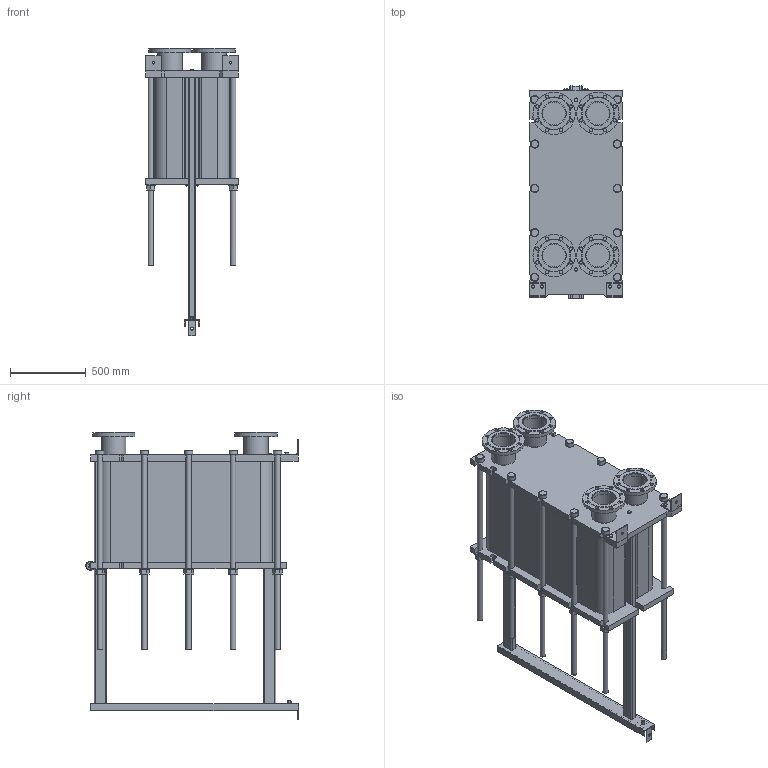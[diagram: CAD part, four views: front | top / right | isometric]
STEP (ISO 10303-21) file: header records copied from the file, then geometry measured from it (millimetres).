
FILE_DESCRIPTION(/* description */ (''),/* implementation_level */ '2;1');
FILE_NAME(/* name */ 'C:\Users\zhuro\Desktop\ENCO\TO\ЭН-041\ЭН-0,5-041-195-1.stp',/* time_stamp */ '2022-06-06T11:06:01+03:00',/* author */ ('zhuro'),/* organization */ (''),/* preprocessor_version */ 'ST-DEVELOPER v18.1',/* originating_system */ 'Autodesk Inventor 2022',/* authorisation */ '');
FILE_SCHEMA (('AUTOMOTIVE_DESIGN { 1 0 10303 214 3 1 1 }'));
Length unit declared in the file: millimetre
Products named in the file (1): ЭН-0,5-041-195-1
Bounding box: 610 x 1406.5 x 1902.5 mm (x, y, z)
Volume: 465528724.3 mm3; surface area: 11119183.2 mm2
Topology: 52 solids, 52 shells, 711 faces, 1696 edges, 1094 vertices
Faces by surface type: plane 487, cylinder 177, cone 41, torus 6
Full cylindrical faces by diameter (mm): 8 x4, 10 x2, 16 x8, 18 x3, 22 x32, 36 x24, 50 x1, 54 x10, 60 x12, 151 x4, 161 x8, 280 x4
Entity records: 22667 total; most frequent: CARTESIAN_POINT 5230, DIRECTION 3644, ORIENTED_EDGE 3392, EDGE_CURVE 1696, AXIS2_PLACEMENT_3D 1272, LINE 1100, VECTOR 1100, VERTEX_POINT 1094
